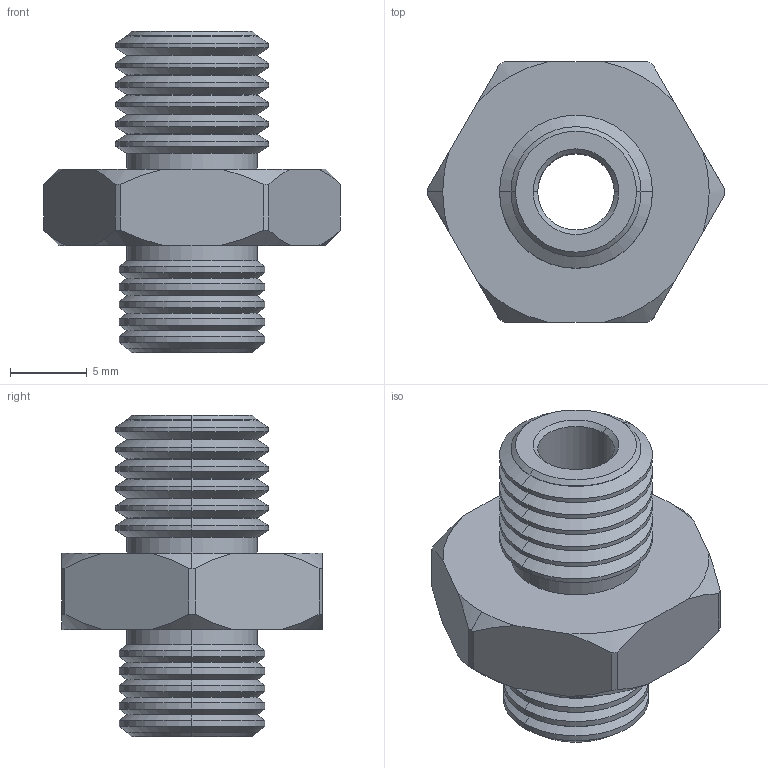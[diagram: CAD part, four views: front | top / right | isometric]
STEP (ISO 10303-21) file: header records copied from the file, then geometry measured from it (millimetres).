
FILE_DESCRIPTION (( 'STEP AP214' ), '1' );
FILE_NAME ('VM-G18M-M10M.STEP', '2023-03-07T08:54:37', ( 'Windows User' ), ( 'P R C' ), 'SwSTEP 2.0', 'SolidWorks 2019', '' );
FILE_SCHEMA (( 'AUTOMOTIVE_DESIGN' ));
Length unit declared in the file: millimetre
Products named in the file (1): VM-G18M-M10M
Bounding box: 19.4 x 17 x 21 mm (x, y, z)
Volume: 1884.1 mm3; surface area: 1724.8 mm2
Topology: 1 solids, 1 shells, 123 faces, 270 edges, 151 vertices
Faces by surface type: cone 66, cylinder 47, plane 10
Entity records: 3425 total; most frequent: CARTESIAN_POINT 665, DIRECTION 621, ORIENTED_EDGE 540, EDGE_CURVE 270, AXIS2_PLACEMENT_3D 251, VERTEX_POINT 151, EDGE_LOOP 127, CIRCLE 127
